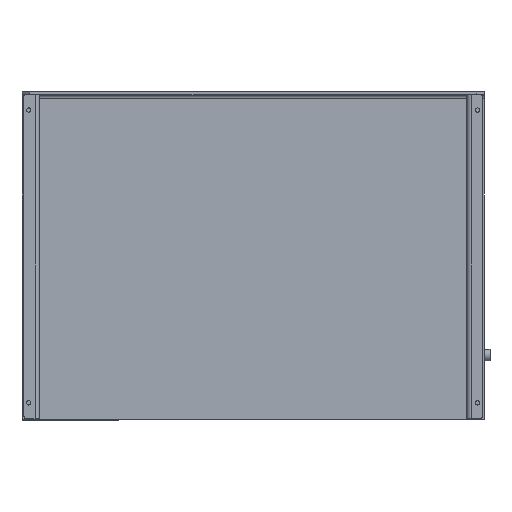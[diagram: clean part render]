
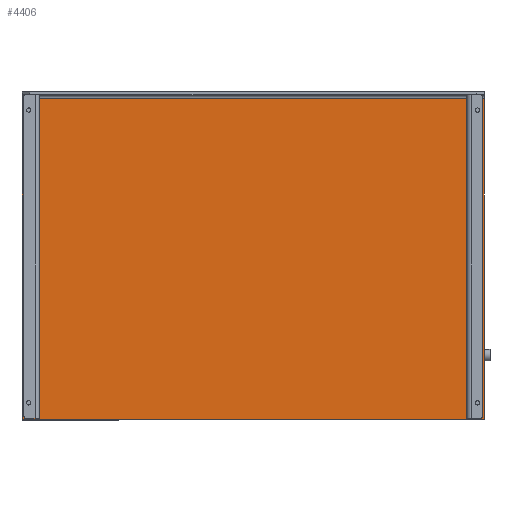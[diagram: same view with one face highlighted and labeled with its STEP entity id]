
A CAD part, front view. The second image highlights one B-rep face of the part: STEP entity #4406.
In plain terms, the highlighted planar face has unit normal (0, -1, 0).
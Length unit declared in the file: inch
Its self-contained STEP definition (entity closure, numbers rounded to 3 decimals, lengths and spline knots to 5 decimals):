
#20 = VECTOR ( 'NONE', #1434, 39.37008 ) ;
#174 = VECTOR ( 'NONE', #6956, 39.37008 ) ;
#248 = DIRECTION ( 'NONE',  ( 0., 0., -1. ) ) ;
#264 = DIRECTION ( 'NONE',  ( 0., -1., 0. ) ) ;
#278 = CARTESIAN_POINT ( 'NONE',  ( -31.94951, -3.033, -17.42639 ) ) ;
#283 = VERTEX_POINT ( 'NONE', #5233 ) ;
#297 = PLANE ( 'NONE',  #12690 ) ;
#881 = CARTESIAN_POINT ( 'NONE',  ( 28.05049, -3.033, 25.13361 ) ) ;
#988 = DIRECTION ( 'NONE',  ( 0., 0., -1. ) ) ;
#1118 = VERTEX_POINT ( 'NONE', #5671 ) ;
#1329 = DIRECTION ( 'NONE',  ( 0., 0., 1. ) ) ;
#1359 = CARTESIAN_POINT ( 'NONE',  ( -31.94951, -3.033, 25.13361 ) ) ;
#1412 = CARTESIAN_POINT ( 'NONE',  ( 28.05049, -3.033, -17.42639 ) ) ;
#1422 = CARTESIAN_POINT ( 'NONE',  ( -31.94951, -3.033, -17.42639 ) ) ;
#1434 = DIRECTION ( 'NONE',  ( -1., 0., 0. ) ) ;
#1860 = VECTOR ( 'NONE', #988, 39.37008 ) ;
#2187 = VECTOR ( 'NONE', #1329, 39.37008 ) ;
#2279 = VERTEX_POINT ( 'NONE', #8847 ) ;
#3091 = ORIENTED_EDGE ( 'NONE', *, *, #9111, .F. ) ;
#3333 = EDGE_LOOP ( 'NONE', ( #6565, #11606, #3091, #6920 ) ) ;
#4406 = ADVANCED_FACE ( 'NONE', ( #13061 ), #297, .T. ) ;
#4468 = CARTESIAN_POINT ( 'NONE',  ( -31.94951, -3.033, 24.23961 ) ) ;
#5233 = CARTESIAN_POINT ( 'NONE',  ( -31.94951, -3.033, 24.23961 ) ) ;
#5671 = CARTESIAN_POINT ( 'NONE',  ( -31.94951, -3.033, -17.42639 ) ) ;
#6565 = ORIENTED_EDGE ( 'NONE', *, *, #9135, .F. ) ;
#6920 = ORIENTED_EDGE ( 'NONE', *, *, #9094, .F. ) ;
#6956 = DIRECTION ( 'NONE',  ( 1., 0., 0. ) ) ;
#7524 = LINE ( 'NONE', #881, #1860 ) ;
#7841 = LINE ( 'NONE', #1359, #2187 ) ;
#8847 = CARTESIAN_POINT ( 'NONE',  ( 28.05049, -3.033, 24.23961 ) ) ;
#9094 = EDGE_CURVE ( 'NONE', #12343, #1118, #10445, .T. ) ;
#9111 = EDGE_CURVE ( 'NONE', #1118, #283, #7841, .T. ) ;
#9135 = EDGE_CURVE ( 'NONE', #2279, #12343, #7524, .T. ) ;
#9269 = EDGE_CURVE ( 'NONE', #283, #2279, #11236, .T. ) ;
#10445 = LINE ( 'NONE', #1422, #20 ) ;
#11236 = LINE ( 'NONE', #4468, #174 ) ;
#11606 = ORIENTED_EDGE ( 'NONE', *, *, #9269, .F. ) ;
#12343 = VERTEX_POINT ( 'NONE', #1412 ) ;
#12690 = AXIS2_PLACEMENT_3D ( 'NONE', #278, #264, #248 ) ;
#13061 = FACE_OUTER_BOUND ( 'NONE', #3333, .T. ) ;
